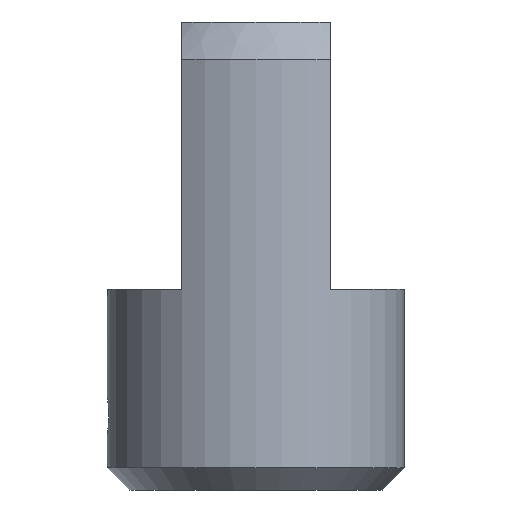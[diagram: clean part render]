
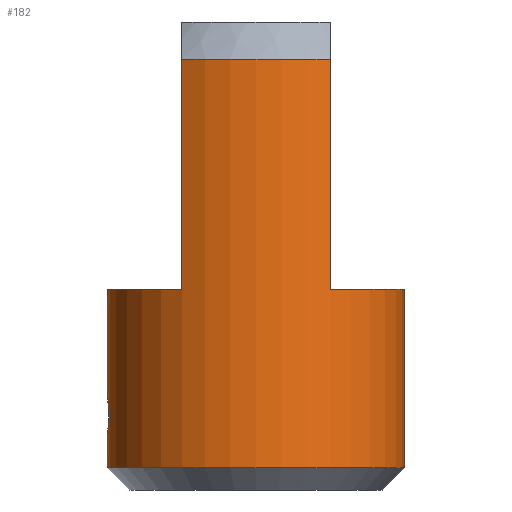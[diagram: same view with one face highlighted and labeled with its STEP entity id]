
A CAD part, front view. The second image highlights one B-rep face of the part: STEP entity #182.
In plain terms, the highlighted cylindrical face has radius 20 mm (diameter 40 mm), a partial arc.
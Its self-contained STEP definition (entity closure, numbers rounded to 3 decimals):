
#1 = VERTEX_POINT ( 'NONE', #787 ) ;
#4 = VECTOR ( 'NONE', #595, 1000. ) ;
#5 = CARTESIAN_POINT ( 'NONE',  ( 10., -17.321, 196. ) ) ;
#6 = CARTESIAN_POINT ( 'NONE',  ( -19.992, -0.64, 176.604 ) ) ;
#8 = CARTESIAN_POINT ( 'NONE',  ( -19.848, -2.459, 179. ) ) ;
#17 = ORIENTED_EDGE ( 'NONE', *, *, #415, .T. ) ;
#23 = CARTESIAN_POINT ( 'NONE',  ( -19.904, -1.969, 177.492 ) ) ;
#28 = EDGE_CURVE ( 'NONE', #382, #248, #741, .T. ) ;
#34 = ORIENTED_EDGE ( 'NONE', *, *, #28, .F. ) ;
#37 = DIRECTION ( 'NONE',  ( 1., 0., 0. ) ) ;
#40 = DIRECTION ( 'NONE',  ( 0., 0., 1. ) ) ;
#41 = LINE ( 'NONE', #195, #725 ) ;
#44 = CYLINDRICAL_SURFACE ( 'NONE', #830, 20. ) ;
#55 = DIRECTION ( 'NONE',  ( 1., 0., 0. ) ) ;
#88 = AXIS2_PLACEMENT_3D ( 'NONE', #704, #222, #543 ) ;
#93 = CARTESIAN_POINT ( 'NONE',  ( -19.848, -2.459, 178.674 ) ) ;
#94 = LINE ( 'NONE', #678, #294 ) ;
#96 = LINE ( 'NONE', #663, #4 ) ;
#123 = DIRECTION ( 'NONE',  ( 0., 0., 1. ) ) ;
#126 = VECTOR ( 'NONE', #201, 1000. ) ;
#143 = CARTESIAN_POINT ( 'NONE',  ( -10., -17.321, 169. ) ) ;
#144 = EDGE_CURVE ( 'NONE', #283, #1, #476, .T. ) ;
#182 = ADVANCED_FACE ( 'NONE', ( #473 ), #44, .T. ) ;
#195 = CARTESIAN_POINT ( 'NONE',  ( -20., 0., 169. ) ) ;
#201 = DIRECTION ( 'NONE',  ( 0., 0., -1. ) ) ;
#202 = ORIENTED_EDGE ( 'NONE', *, *, #770, .T. ) ;
#204 = CIRCLE ( 'NONE', #247, 20. ) ;
#209 = CARTESIAN_POINT ( 'NONE',  ( 10., -17.321, 227. ) ) ;
#222 = DIRECTION ( 'NONE',  ( 0., 0., -1. ) ) ;
#226 = CARTESIAN_POINT ( 'NONE',  ( -20., 0., 176.542 ) ) ;
#234 = CARTESIAN_POINT ( 'NONE',  ( -10., -17.321, 227. ) ) ;
#241 = CARTESIAN_POINT ( 'NONE',  ( -19.904, -1.969, 180.508 ) ) ;
#247 = AXIS2_PLACEMENT_3D ( 'NONE', #604, #391, #258 ) ;
#248 = VERTEX_POINT ( 'NONE', #209 ) ;
#252 = ORIENTED_EDGE ( 'NONE', *, *, #684, .T. ) ;
#257 = VERTEX_POINT ( 'NONE', #541 ) ;
#258 = DIRECTION ( 'NONE',  ( 1., 0., 0. ) ) ;
#264 = CARTESIAN_POINT ( 'NONE',  ( -19.964, -1.243, 176.854 ) ) ;
#283 = VERTEX_POINT ( 'NONE', #606 ) ;
#289 = CARTESIAN_POINT ( 'NONE',  ( -19.885, -2.146, 180.243 ) ) ;
#291 = CARTESIAN_POINT ( 'NONE',  ( -20., -0.326, 176.541 ) ) ;
#292 = CARTESIAN_POINT ( 'NONE',  ( 20., 0., 172. ) ) ;
#294 = VECTOR ( 'NONE', #40, 1000. ) ;
#307 = VERTEX_POINT ( 'NONE', #452 ) ;
#323 = CARTESIAN_POINT ( 'NONE',  ( -19.944, -1.508, 177.031 ) ) ;
#334 = ORIENTED_EDGE ( 'NONE', *, *, #921, .T. ) ;
#336 = CARTESIAN_POINT ( 'NONE',  ( -20., 0., 181.459 ) ) ;
#341 = LINE ( 'NONE', #143, #126 ) ;
#347 = CARTESIAN_POINT ( 'NONE',  ( 20., 0., 196. ) ) ;
#352 = CARTESIAN_POINT ( 'NONE',  ( -20., 0., 181.459 ) ) ;
#358 = CARTESIAN_POINT ( 'NONE',  ( 0., 0., 227. ) ) ;
#367 = CARTESIAN_POINT ( 'NONE',  ( -19.944, -1.508, 180.969 ) ) ;
#376 = VERTEX_POINT ( 'NONE', #292 ) ;
#379 = DIRECTION ( 'NONE',  ( 0., 0., 1. ) ) ;
#382 = VERTEX_POINT ( 'NONE', #234 ) ;
#387 = DIRECTION ( 'NONE',  ( 0., 0., -1. ) ) ;
#391 = DIRECTION ( 'NONE',  ( 0., 0., -1. ) ) ;
#415 = EDGE_CURVE ( 'NONE', #556, #283, #621, .T. ) ;
#418 = VERTEX_POINT ( 'NONE', #5 ) ;
#429 = CARTESIAN_POINT ( 'NONE',  ( -19.848, -2.458, 179.326 ) ) ;
#437 = CARTESIAN_POINT ( 'NONE',  ( -19.992, -0.64, 181.396 ) ) ;
#445 = EDGE_CURVE ( 'NONE', #822, #418, #204, .T. ) ;
#452 = CARTESIAN_POINT ( 'NONE',  ( -10., -17.321, 196. ) ) ;
#456 = CARTESIAN_POINT ( 'NONE',  ( -20., 0., 172. ) ) ;
#458 = VECTOR ( 'NONE', #123, 1000. ) ;
#473 = FACE_OUTER_BOUND ( 'NONE', #545, .T. ) ;
#476 = B_SPLINE_CURVE_WITH_KNOTS ( 'NONE', 3,
 ( #853, #93, #661, #890, #23, #323, #264, #6, #291, #226 ),
 .UNSPECIFIED., .F., .F.,
 ( 4, 2, 2, 2, 4 ),
 ( 0.5, 0.625, 0.75, 0.875, 1. ),
 .UNSPECIFIED. ) ;
#489 = ORIENTED_EDGE ( 'NONE', *, *, #445, .T. ) ;
#497 = EDGE_CURVE ( 'NONE', #418, #248, #94, .T. ) ;
#508 = DIRECTION ( 'NONE',  ( 0., 0., 1. ) ) ;
#514 = DIRECTION ( 'NONE',  ( 1., 0., 0. ) ) ;
#541 = CARTESIAN_POINT ( 'NONE',  ( -20., 0., 196. ) ) ;
#543 = DIRECTION ( 'NONE',  ( 1., 0., 0. ) ) ;
#545 = EDGE_LOOP ( 'NONE', ( #841, #913, #202, #489, #706, #34, #334, #252, #624, #17, #845 ) ) ;
#556 = VERTEX_POINT ( 'NONE', #336 ) ;
#595 = DIRECTION ( 'NONE',  ( 0., 0., 1. ) ) ;
#604 = CARTESIAN_POINT ( 'NONE',  ( 0., 0., 196. ) ) ;
#606 = CARTESIAN_POINT ( 'NONE',  ( -19.848, -2.459, 179. ) ) ;
#619 = LINE ( 'NONE', #756, #458 ) ;
#621 = B_SPLINE_CURVE_WITH_KNOTS ( 'NONE', 3,
 ( #352, #847, #437, #722, #367, #241, #289, #645, #429, #8 ),
 .UNSPECIFIED., .F., .F.,
 ( 4, 2, 2, 2, 4 ),
 ( 0., 0.125, 0.25, 0.375, 0.5 ),
 .UNSPECIFIED. ) ;
#624 = ORIENTED_EDGE ( 'NONE', *, *, #637, .F. ) ;
#631 = CIRCLE ( 'NONE', #639, 20. ) ;
#637 = EDGE_CURVE ( 'NONE', #556, #257, #619, .T. ) ;
#639 = AXIS2_PLACEMENT_3D ( 'NONE', #745, #387, #37 ) ;
#645 = CARTESIAN_POINT ( 'NONE',  ( -19.856, -2.396, 179.64 ) ) ;
#646 = EDGE_CURVE ( 'NONE', #666, #1, #41, .T. ) ;
#661 = CARTESIAN_POINT ( 'NONE',  ( -19.856, -2.396, 178.36 ) ) ;
#663 = CARTESIAN_POINT ( 'NONE',  ( 20., 0., 169. ) ) ;
#666 = VERTEX_POINT ( 'NONE', #456 ) ;
#678 = CARTESIAN_POINT ( 'NONE',  ( 10., -17.321, 169. ) ) ;
#684 = EDGE_CURVE ( 'NONE', #307, #257, #631, .T. ) ;
#704 = CARTESIAN_POINT ( 'NONE',  ( 0., 0., 172. ) ) ;
#706 = ORIENTED_EDGE ( 'NONE', *, *, #497, .T. ) ;
#722 = CARTESIAN_POINT ( 'NONE',  ( -19.964, -1.242, 181.146 ) ) ;
#725 = VECTOR ( 'NONE', #379, 1000. ) ;
#741 = CIRCLE ( 'NONE', #873, 20. ) ;
#745 = CARTESIAN_POINT ( 'NONE',  ( 0., 0., 196. ) ) ;
#756 = CARTESIAN_POINT ( 'NONE',  ( -20., 0., 169. ) ) ;
#763 = CARTESIAN_POINT ( 'NONE',  ( 0., 0., 169. ) ) ;
#770 = EDGE_CURVE ( 'NONE', #376, #822, #96, .T. ) ;
#787 = CARTESIAN_POINT ( 'NONE',  ( -20., 0., 176.542 ) ) ;
#822 = VERTEX_POINT ( 'NONE', #347 ) ;
#827 = DIRECTION ( 'NONE',  ( 0., 0., 1. ) ) ;
#830 = AXIS2_PLACEMENT_3D ( 'NONE', #763, #827, #55 ) ;
#839 = EDGE_CURVE ( 'NONE', #376, #666, #875, .T. ) ;
#841 = ORIENTED_EDGE ( 'NONE', *, *, #646, .F. ) ;
#845 = ORIENTED_EDGE ( 'NONE', *, *, #144, .T. ) ;
#847 = CARTESIAN_POINT ( 'NONE',  ( -20., -0.326, 181.459 ) ) ;
#853 = CARTESIAN_POINT ( 'NONE',  ( -19.848, -2.459, 179. ) ) ;
#873 = AXIS2_PLACEMENT_3D ( 'NONE', #358, #508, #514 ) ;
#875 = CIRCLE ( 'NONE', #88, 20. ) ;
#890 = CARTESIAN_POINT ( 'NONE',  ( -19.885, -2.147, 177.758 ) ) ;
#913 = ORIENTED_EDGE ( 'NONE', *, *, #839, .F. ) ;
#921 = EDGE_CURVE ( 'NONE', #382, #307, #341, .T. ) ;
